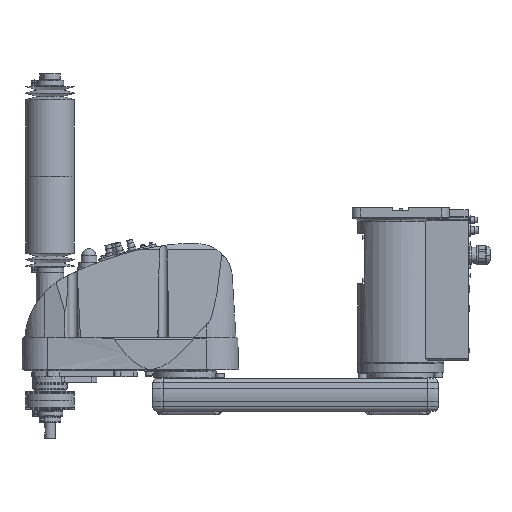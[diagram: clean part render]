
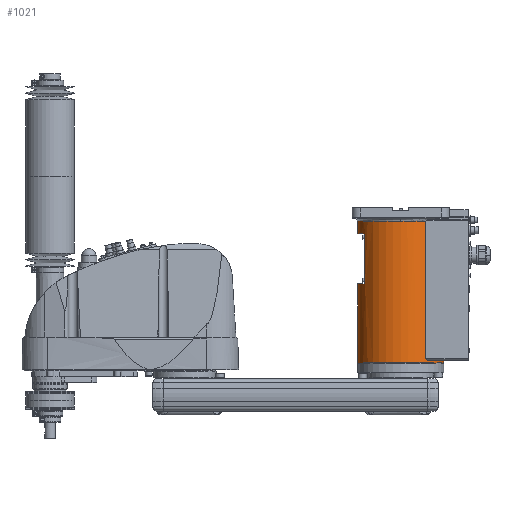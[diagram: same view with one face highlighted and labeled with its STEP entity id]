
A CAD part, top view. The second image highlights one B-rep face of the part: STEP entity #1021.
In plain terms, the highlighted cylindrical face has radius 80 mm (diameter 160 mm), a partial arc.
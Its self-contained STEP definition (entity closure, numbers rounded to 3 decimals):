
#1021 = ADVANCED_FACE( '', ( #3536 ), #3537, .T. );
#3536 = FACE_OUTER_BOUND( '', #7410, .T. );
#3537 = CYLINDRICAL_SURFACE( '', #7411, 80. );
#7410 = EDGE_LOOP( '', ( #14748, #14749, #14750, #14751, #14752, #14753, #14754, #14755, #14756, #14757, #14758, #14759 ) );
#7411 = AXIS2_PLACEMENT_3D( '', #14760, #14761, #14762 );
#14748 = ORIENTED_EDGE( '', *, *, #24066, .T. );
#14749 = ORIENTED_EDGE( '', *, *, #25425, .T. );
#14750 = ORIENTED_EDGE( '', *, *, #25420, .T. );
#14751 = ORIENTED_EDGE( '', *, *, #25416, .T. );
#14752 = ORIENTED_EDGE( '', *, *, #24117, .F. );
#14753 = ORIENTED_EDGE( '', *, *, #24123, .F. );
#14754 = ORIENTED_EDGE( '', *, *, #24072, .T. );
#14755 = ORIENTED_EDGE( '', *, *, #25227, .T. );
#14756 = ORIENTED_EDGE( '', *, *, #25229, .T. );
#14757 = ORIENTED_EDGE( '', *, *, #25230, .T. );
#14758 = ORIENTED_EDGE( '', *, *, #24068, .T. );
#14759 = ORIENTED_EDGE( '', *, *, #25551, .T. );
#14760 = CARTESIAN_POINT( '', ( 0., 160.75, 0. ) );
#14761 = DIRECTION( '', ( 0., -1., 0. ) );
#14762 = DIRECTION( '', ( 1., 0., 0. ) );
#24066 = EDGE_CURVE( '', #28423, #28424, #28425, .T. );
#24068 = EDGE_CURVE( '', #28428, #28426, #28429, .T. );
#24072 = EDGE_CURVE( '', #28436, #28434, #28437, .T. );
#24117 = EDGE_CURVE( '', #28522, #28524, #28525, .T. );
#24123 = EDGE_CURVE( '', #28436, #28522, #28535, .T. );
#25227 = EDGE_CURVE( '', #28434, #30373, #30375, .T. );
#25229 = EDGE_CURVE( '', #30373, #30376, #30378, .T. );
#25230 = EDGE_CURVE( '', #30376, #28428, #30379, .T. );
#25416 = EDGE_CURVE( '', #30671, #28524, #30672, .T. );
#25420 = EDGE_CURVE( '', #30678, #30671, #30679, .T. );
#25425 = EDGE_CURVE( '', #28424, #30678, #30686, .T. );
#25551 = EDGE_CURVE( '', #28426, #28423, #30881, .T. );
#28423 = VERTEX_POINT( '', #35593 );
#28424 = VERTEX_POINT( '', #35594 );
#28425 = LINE( '', #35595, #35596 );
#28426 = VERTEX_POINT( '', #35597 );
#28428 = VERTEX_POINT( '', #35599 );
#28429 = LINE( '', #35600, #35601 );
#28434 = VERTEX_POINT( '', #35607 );
#28436 = VERTEX_POINT( '', #35609 );
#28437 = LINE( '', #35610, #35611 );
#28522 = VERTEX_POINT( '', #35732 );
#28524 = VERTEX_POINT( '', #35734 );
#28525 = CIRCLE( '', #35735, 80. );
#28535 = CIRCLE( '', #35782, 80. );
#30373 = VERTEX_POINT( '', #38372 );
#30375 = CIRCLE( '', #38375, 80. );
#30376 = VERTEX_POINT( '', #38376 );
#30378 = LINE( '', #38379, #38380 );
#30379 = CIRCLE( '', #38381, 80. );
#30671 = VERTEX_POINT( '', #38866 );
#30672 = LINE( '', #38867, #38868 );
#30678 = VERTEX_POINT( '', #38877 );
#30679 = B_SPLINE_CURVE_WITH_KNOTS( '', 3, ( #38878, #38879, #38880, #38881, #38882, #38883, #38884, #38885, #38886, #38887, #38888, #38889, #38890, #38891, #38892, #38893 ), .UNSPECIFIED., .F., .F., ( 4, 2, 2, 2, 2, 2, 2, 4 ), ( -6.06, -5.11, -4.16, -2.26, -1.695, -1.13, -0.565, 0. ), .UNSPECIFIED. );
#30686 = CIRCLE( '', #38903, 80. );
#30881 = CIRCLE( '', #39305, 80. );
#35593 = CARTESIAN_POINT( '', ( 80., 30., 0. ) );
#35594 = CARTESIAN_POINT( '', ( 80., 34.5, 0. ) );
#35595 = CARTESIAN_POINT( '', ( 80., 160.75, 0. ) );
#35596 = VECTOR( '', #49339, 1. );
#35597 = CARTESIAN_POINT( '', ( -80., 30., 0. ) );
#35599 = CARTESIAN_POINT( '', ( -80., 176., 0. ) );
#35600 = CARTESIAN_POINT( '', ( -80., 160.75, 0. ) );
#35601 = VECTOR( '', #49343, 1. );
#35607 = CARTESIAN_POINT( '', ( -80., 269., 0. ) );
#35609 = CARTESIAN_POINT( '', ( -80., 291.5, 0. ) );
#35610 = CARTESIAN_POINT( '', ( -80., 160.75, 0. ) );
#35611 = VECTOR( '', #49351, 1. );
#35732 = CARTESIAN_POINT( '', ( 0., 291.5, 80. ) );
#35734 = CARTESIAN_POINT( '', ( 46.637, 291.5, 65. ) );
#35735 = AXIS2_PLACEMENT_3D( '', #49439, #49440, #49441 );
#35782 = AXIS2_PLACEMENT_3D( '', #49448, #49449, #49450 );
#38372 = CARTESIAN_POINT( '', ( -66., 269., 45.211 ) );
#38375 = AXIS2_PLACEMENT_3D( '', #51346, #51347, #51348 );
#38376 = CARTESIAN_POINT( '', ( -66., 176., 45.211 ) );
#38379 = CARTESIAN_POINT( '', ( -66., 222.5, 45.211 ) );
#38380 = VECTOR( '', #51350, 1. );
#38381 = AXIS2_PLACEMENT_3D( '', #51351, #51352, #51353 );
#38866 = CARTESIAN_POINT( '', ( 46.637, 37.5, 65. ) );
#38867 = CARTESIAN_POINT( '', ( 46.637, 164.5, 65. ) );
#38868 = VECTOR( '', #51615, 1. );
#38877 = CARTESIAN_POINT( '', ( 50.557, 34.5, 62. ) );
#38878 = CARTESIAN_POINT( '', ( 50.557, 34.5, 62. ) );
#38879 = CARTESIAN_POINT( '', ( 50.312, 34.5, 62.2 ) );
#38880 = CARTESIAN_POINT( '', ( 50.054, 34.52, 62.407 ) );
#38881 = CARTESIAN_POINT( '', ( 49.533, 34.607, 62.822 ) );
#38882 = CARTESIAN_POINT( '', ( 49.269, 34.674, 63.029 ) );
#38883 = CARTESIAN_POINT( '', ( 48.491, 34.945, 63.632 ) );
#38884 = CARTESIAN_POINT( '', ( 47.991, 35.221, 64.009 ) );
#38885 = CARTESIAN_POINT( '', ( 47.455, 35.701, 64.405 ) );
#38886 = CARTESIAN_POINT( '', ( 47.333, 35.827, 64.495 ) );
#38887 = CARTESIAN_POINT( '', ( 47.106, 36.105, 64.661 ) );
#38888 = CARTESIAN_POINT( '', ( 47.002, 36.258, 64.736 ) );
#38889 = CARTESIAN_POINT( '', ( 46.828, 36.585, 64.863 ) );
#38890 = CARTESIAN_POINT( '', ( 46.758, 36.761, 64.913 ) );
#38891 = CARTESIAN_POINT( '', ( 46.662, 37.124, 64.982 ) );
#38892 = CARTESIAN_POINT( '', ( 46.637, 37.312, 65. ) );
#38893 = CARTESIAN_POINT( '', ( 46.637, 37.5, 65. ) );
#38903 = AXIS2_PLACEMENT_3D( '', #51625, #51626, #51627 );
#39305 = AXIS2_PLACEMENT_3D( '', #51828, #51829, #51830 );
#49339 = DIRECTION( '', ( 0., 1., 0. ) );
#49343 = DIRECTION( '', ( 0., -1., 0. ) );
#49351 = DIRECTION( '', ( 0., -1., 0. ) );
#49439 = CARTESIAN_POINT( '', ( 0., 291.5, 0. ) );
#49440 = DIRECTION( '', ( 0., 1., 0. ) );
#49441 = DIRECTION( '', ( 1., 0., 0. ) );
#49448 = CARTESIAN_POINT( '', ( 0., 291.5, 0. ) );
#49449 = DIRECTION( '', ( 0., 1., 0. ) );
#49450 = DIRECTION( '', ( 1., 0., 0. ) );
#51346 = CARTESIAN_POINT( '', ( 0., 269., 0. ) );
#51347 = DIRECTION( '', ( 0., 1., 0. ) );
#51348 = DIRECTION( '', ( 1., 0., 0. ) );
#51350 = DIRECTION( '', ( 0., -1., 0. ) );
#51351 = CARTESIAN_POINT( '', ( 0., 176., 0. ) );
#51352 = DIRECTION( '', ( 0., -1., 0. ) );
#51353 = DIRECTION( '', ( 1., 0., 0. ) );
#51615 = DIRECTION( '', ( 0., 1., 0. ) );
#51625 = CARTESIAN_POINT( '', ( 0., 34.5, 0. ) );
#51626 = DIRECTION( '', ( 0., -1., 0. ) );
#51627 = DIRECTION( '', ( 1., 0., 0. ) );
#51828 = CARTESIAN_POINT( '', ( 0., 30., 0. ) );
#51829 = DIRECTION( '', ( 0., 1., 0. ) );
#51830 = DIRECTION( '', ( 1., 0., 0. ) );
